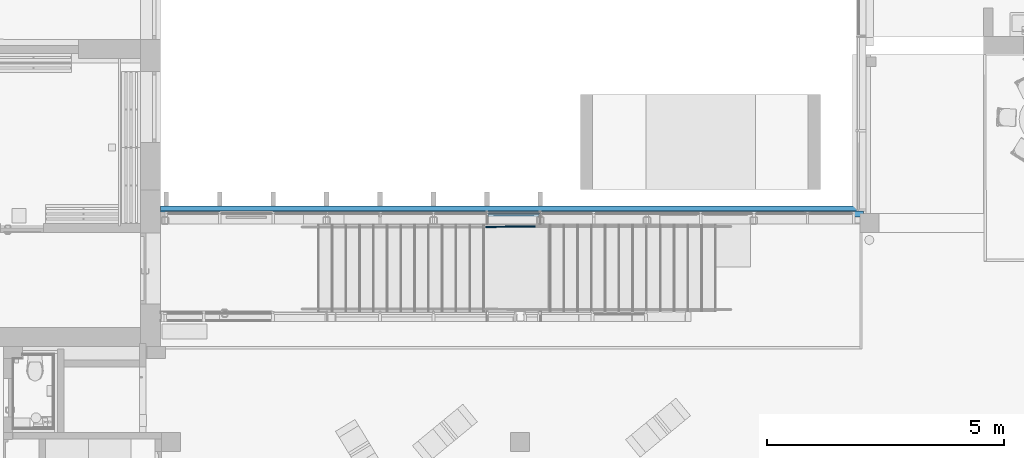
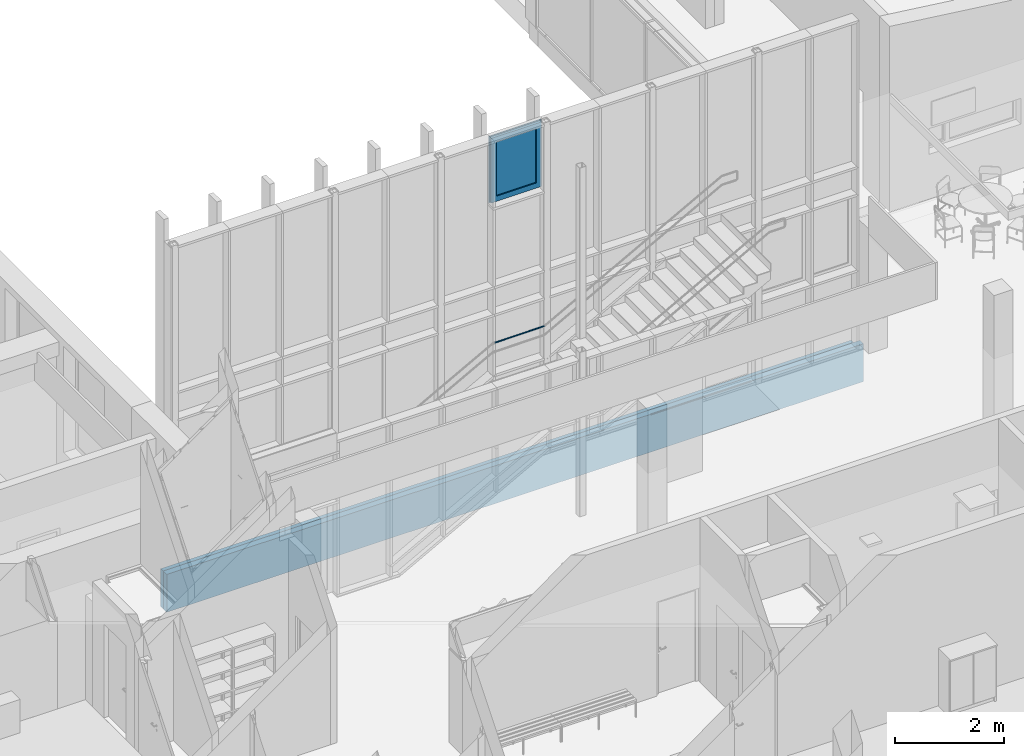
# One storey, part 195 of 301: 5 building element parts, 4 elements without a shape of their own.
"""IFC2X3 building model written with IfcOpenShell, lengths in millimetres."""

import ifcopenshell
import ifcopenshell.guid

model = None  # the IFC model being written
_history = None  # IfcOwnerHistory: only IFC2X3 demands one
_inside = {}  # id of a spatial element -> (the spatial element, [elements in it])
_under = {}  # id of a project, library or spatial element -> (it, [spatial elements below it])
_declared = {}  # id of a project -> (the project, [libraries it declares])
_typed = {}  # id of a type object -> (the type object, [elements of that type])
_made_of = {}  # id of a material, layer set ... -> (it, [elements and type objects made of it])


def new_model(schema):
    """Start an empty IFC model of exactly this schema.

    Asked for "IFC4X3", IfcOpenShell would pick the latest addendum, in which some entities
    have other attributes; the version numbers below select the first issue.
    IFC2X3 requires an IfcOwnerHistory on every rooted entity: one is made here for all.
    """
    global model, _history
    if schema == "IFC4X3":
        model = ifcopenshell.file(schema_version=(4, 3, 0, 0))
    else:
        model = ifcopenshell.file(schema=schema)
    _inside.clear()
    _under.clear()
    _declared.clear()
    _typed.clear()
    _made_of.clear()
    _history = None
    if model.schema == "IFC2X3":
        org = make("IfcOrganization", Name="unknown")
        user = make(
            "IfcPersonAndOrganization",
            ThePerson=make("IfcPerson", FamilyName="unknown"),
            TheOrganization=org,
        )
        app = make(
            "IfcApplication",
            ApplicationDeveloper=org,
            Version="unknown",
            ApplicationFullName="unknown",
            ApplicationIdentifier="unknown",
        )
        _history = make(
            "IfcOwnerHistory",
            OwningUser=user,
            OwningApplication=app,
            ChangeAction="ADDED",
            CreationDate=0,
        )
    return model


def make(cls, **values):
    """One entity of the class cls with the attributes given. An attribute that is None is left unset."""
    return model.create_entity(
        cls, **{name: value for name, value in values.items() if value is not None}
    )


def entity(cls, *values):
    """Any entity or typed value of the class cls, its attributes in the order of the schema. None: left unset."""
    e = model.create_entity(cls)
    for i, value in enumerate(values):
        if value is not None:
            e[i] = value
    return e


def rooted(cls, **values):
    """An entity with a GlobalId (a new one), such as an element, a storey or a relation."""
    return make(cls, GlobalId=ifcopenshell.guid.new(), OwnerHistory=_history, **values)


def si_unit(unit_type, name, prefix=None):
    """IfcSIUnit, for example si_unit("LENGTHUNIT", "METRE", prefix="MILLI")."""
    return make("IfcSIUnit", UnitType=unit_type, Prefix=prefix, Name=name)


def converted_unit(unit_type, name, factor, base, dimensions=None, offset=None):
    """IfcConversionBasedUnit, such as the inch: factor (a typed value) times the base unit."""
    return make(
        "IfcConversionBasedUnit"
        if offset is None
        else "IfcConversionBasedUnitWithOffset",
        ConversionOffset=offset,
        Dimensions=None
        if dimensions is None
        else entity("IfcDimensionalExponents", *dimensions),
        UnitType=unit_type,
        Name=name,
        ConversionFactor=make(
            "IfcMeasureWithUnit", ValueComponent=factor, UnitComponent=base
        ),
    )


def derived_unit(unit_type, elements):
    """IfcDerivedUnit: a product of units, each with its exponent."""
    return make(
        "IfcDerivedUnit",
        Elements=[
            make("IfcDerivedUnitElement", Unit=unit, Exponent=power)
            for unit, power in elements
        ],
        UnitType=unit_type,
    )


def money_unit(currency):
    """IfcMonetaryUnit."""
    return make("IfcMonetaryUnit", Currency=currency)


def assignment(units):
    """IfcUnitAssignment: the units of a project."""
    return None if units is None else make("IfcUnitAssignment", Units=units)


def point(xyz):
    """IfcCartesianPoint."""
    return None if xyz is None else make("IfcCartesianPoint", Coordinates=xyz)


def direction(xyz):
    """IfcDirection."""
    return None if xyz is None else make("IfcDirection", DirectionRatios=xyz)


def frame(location, z_axis=None, x_axis=None):
    """IfcAxis2Placement3D, a coordinate frame: its origin and axes. An axis left out is left unset."""
    return make(
        "IfcAxis2Placement3D",
        Location=point(location),
        Axis=direction(z_axis),
        RefDirection=direction(x_axis),
    )


def origin_with_axes():
    """The frame at (0, 0, 0) with the z axis (0, 0, 1) and the x axis (1, 0, 0) written out."""
    return frame((0.0, 0.0, 0.0), z_axis=(0.0, 0.0, 1.0), x_axis=(1.0, 0.0, 0.0))


def place(relative_to, where):
    """IfcLocalPlacement: puts the frame where relative to a parent placement (None: the world)."""
    return make(
        "IfcLocalPlacement", PlacementRelTo=relative_to, RelativePlacement=where
    )


def context(
    kind, dimensions, precision=None, world=None, true_north=None, identifier=None
):
    """IfcGeometricRepresentationContext, for example the 3D "Model" context."""
    return make(
        "IfcGeometricRepresentationContext",
        ContextIdentifier=identifier,
        ContextType=kind,
        CoordinateSpaceDimension=dimensions,
        Precision=precision,
        WorldCoordinateSystem=world,
        TrueNorth=true_north,
    )


def subcontext(parent, identifier, kind, view, scale=None):
    """IfcGeometricRepresentationSubContext, for example "Body" below "Model"."""
    return make(
        "IfcGeometricRepresentationSubContext",
        ContextIdentifier=identifier,
        ContextType=kind,
        ParentContext=parent,
        TargetScale=scale,
        TargetView=view,
    )


def project(units=None, contexts=None):
    """IfcProject with its units and contexts."""
    return rooted(
        "IfcProject",
        Name="project",
        RepresentationContexts=contexts,
        UnitsInContext=assignment(units),
    )


def spatial(cls, under=None, at=None, **own):
    """A site, building, storey or space (cls), placed at a placement, below another one or the project."""
    s = rooted(cls, ObjectPlacement=at, **own)
    if under is not None:
        _under.setdefault(under.id(), (under, []))[1].append(s)
    return s


def faces_of(points, faces, orient=None, outer=None):
    """IfcFace entities. A face is a list of loops; a loop is a list of indices into points, from 0.

    orient and outer hold one flag for each loop. By default every Orientation is true, the
    first loop of a face is its IfcFaceOuterBound and the others are IfcFaceBound.
    """
    made = []
    for i, loops in enumerate(faces):
        bounds = []
        for j, loop in enumerate(loops):
            is_outer = j == 0 if outer is None else outer[i][j]
            bounds.append(
                make(
                    "IfcFaceOuterBound" if is_outer else "IfcFaceBound",
                    Bound=make("IfcPolyLoop", Polygon=[points[k] for k in loop]),
                    Orientation=True if orient is None else orient[i][j],
                )
            )
        made.append(make("IfcFace", Bounds=bounds))
    return made


def open_shell(faces, orient=None, outer=None):
    """The faces of one IfcOpenShell. surface_model builds it on its shared points."""
    return ("IfcOpenShell", faces, orient, outer)


def faceted_brep(points, faces, orient=None, outer=None, voids=None):
    """IfcFacetedBrep: a solid bounded by flat faces; with voids (closed shells), ...WithVoids."""
    shared = [point(p) for p in points]
    hull = make("IfcClosedShell", CfsFaces=faces_of(shared, faces, orient, outer))
    if voids is None:
        return make("IfcFacetedBrep", Outer=hull)
    return make(
        "IfcFacetedBrepWithVoids",
        Outer=hull,
        Voids=[
            make(cls, CfsFaces=faces_of(shared, fs, o, b)) for cls, fs, o, b in voids
        ],
    )


def surface_model(cls, points, shells):
    """IfcFaceBasedSurfaceModel or IfcShellBasedSurfaceModel (cls): surfaces that need not close."""
    shared = [point(p) for p in points]
    made = [make(c, CfsFaces=faces_of(shared, fs, o, b)) for c, fs, o, b in shells]
    if cls == "IfcFaceBasedSurfaceModel":
        return make(cls, FbsmFaces=made)
    return make(cls, SbsmBoundary=made)


def shape(context_of_items, identifier, shape_type, items):
    """IfcShapeRepresentation: the items that make up one representation, for example the "Body"."""
    return make(
        "IfcShapeRepresentation",
        ContextOfItems=context_of_items,
        RepresentationIdentifier=identifier,
        RepresentationType=shape_type,
        Items=items,
    )


def material(Name=None, Category=None):
    """IfcMaterial."""
    return make("IfcMaterial", Name=Name, Category=Category)


def made_of(thing, what):
    """Note that an element or type object is made of a material, layer set ...; save() writes the relation."""
    if what is not None:
        _made_of.setdefault(what.id(), (what, []))[1].append(thing)
    return thing


def type_object(cls, material=None, **own):
    """A type object (cls), such as IfcWallType, which elements share."""
    return made_of(rooted(cls, **own), material)


def element(
    cls,
    number,
    at=None,
    inside=None,
    cuts=None,
    type_object=None,
    material=None,
    context=None,
    identifier="Body",
    shape_type=None,
    held_by="IfcProductDefinitionShape",
    body=None,
    shapes=None,
    **own,
):
    """One element of the class cls, such as IfcWall. Its Tag is "e" and its number.

    at: its placement. inside: the storey or other place that contains it. cuts: it is an
    opening in that element (IfcRelVoidsElement). A single representation is given by context,
    identifier, shape_type and body (its items); several are given by shapes. held_by: the class
    of the entity that holds the representations. save() writes the other relations.
    """
    e = rooted(cls, Tag="e%d" % number, ObjectPlacement=at, **own)
    if body is not None:
        shapes = [shape(context, identifier, shape_type, body)]
    if shapes is not None:
        e.Representation = make(held_by, Representations=shapes)
    if inside is not None:
        _inside.setdefault(inside.id(), (inside, []))[1].append(e)
    if cuts is not None:
        rooted(
            "IfcRelVoidsElement", RelatingBuildingElement=cuts, RelatedOpeningElement=e
        )
    if type_object is not None:
        _typed.setdefault(type_object.id(), (type_object, []))[1].append(e)
    return made_of(e, material)


def aggregate(whole, parts):
    """IfcRelAggregates: a whole, such as a stair, and the parts it consists of."""
    return rooted("IfcRelAggregates", RelatingObject=whole, RelatedObjects=parts)


def save(model, path):
    """Write the relations noted so far, then the file.

    IfcRelAggregates (storeys below a building ...), IfcRelContainedInSpatialStructure (elements
    in a storey), IfcRelDefinesByType, IfcRelAssociatesMaterial and IfcRelDeclares: one each for
    every whole, place, type object, material and project.
    """
    for whole, parts in _under.values():
        aggregate(whole, parts)
    for where, things in _inside.values():
        rooted(
            "IfcRelContainedInSpatialStructure",
            RelatedElements=things,
            RelatingStructure=where,
        )
    for kind, things in _typed.values():
        rooted("IfcRelDefinesByType", RelatedObjects=things, RelatingType=kind)
    for what, things in _made_of.values():
        rooted("IfcRelAssociatesMaterial", RelatedObjects=things, RelatingMaterial=what)
    for by, libraries in _declared.values():
        rooted("IfcRelDeclares", RelatingContext=by, RelatedDefinitions=libraries)
    model.write(path)


model = new_model("IFC2X3")

# Units and contexts
model_context = context("Model", 3, precision=0.01, world=origin_with_axes(), true_north=direction((0.0, 1.0)))
body_context = subcontext(model_context, "Body", "Model", "MODEL_VIEW")
ifc_project = project(units=[si_unit("LENGTHUNIT", "METRE", prefix="MILLI"), si_unit("AREAUNIT", "SQUARE_METRE"), si_unit("VOLUMEUNIT", "CUBIC_METRE"), converted_unit("PLANEANGLEUNIT", "DEGREE", entity("IfcPlaneAngleMeasure", 0.0174532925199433), si_unit("PLANEANGLEUNIT", "RADIAN"), dimensions=[0, 0, 0, 0, 0, 0, 0]), money_unit("EUR"), converted_unit("TIMEUNIT", "Year", entity("IfcTimeMeasure", 31557600.0), si_unit("TIMEUNIT", "SECOND"), dimensions=[0, 0, 1, 0, 0, 0, 0]), si_unit("MASSUNIT", "GRAM", prefix="KILO"), si_unit("THERMODYNAMICTEMPERATUREUNIT", "DEGREE_CELSIUS"), si_unit("LUMINOUSINTENSITYUNIT", "LUMEN"), si_unit("ENERGYUNIT", "JOULE", prefix="MEGA"), derived_unit("THERMALCONDUCTANCEUNIT", [(si_unit("POWERUNIT", "WATT"), 1), (si_unit("LENGTHUNIT", "METRE"), -1), (si_unit("THERMODYNAMICTEMPERATUREUNIT", "KELVIN"), -1)]), derived_unit("SPECIFICHEATCAPACITYUNIT", [(si_unit("ENERGYUNIT", "JOULE"), 1), (si_unit("MASSUNIT", "GRAM", prefix="KILO"), -1), (si_unit("THERMODYNAMICTEMPERATUREUNIT", "KELVIN"), -1)]), derived_unit("MASSDENSITYUNIT", [(si_unit("MASSUNIT", "GRAM", prefix="KILO"), 1), (si_unit("VOLUMEUNIT", "CUBIC_METRE"), -1)])], contexts=[model_context])

# Site, building, storey
site_placement = place(None, frame((0.0, 0.0, 8650.0), z_axis=(0.0, 0.0, 1.0), x_axis=(1.0, 0.0, 0.0)))
site = spatial("IfcSite", under=ifc_project, at=site_placement, Name="43301:001:0844", CompositionType="ELEMENT")
building_placement = place(site_placement, origin_with_axes())
building = spatial("IfcBuilding", under=site, at=building_placement, Name="Kuressaare Ametikooli tuulikute mehaanikute õppekorpus", CompositionType="ELEMENT")
storey_placement = place(building_placement, origin_with_axes())
storey = spatial("IfcBuildingStorey", under=building, at=storey_placement, Name="1.korrus", CompositionType="ELEMENT", Elevation=0.0)

# Curtain wall, window, building element parts
curtain_wall_type = type_object("IfcCurtainWallType", Name="Curtain Wall Type", PredefinedType="NOTDEFINED")
curtain_wall_placement = place(storey_placement, frame((116704.6026822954, 28579.57374875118, 35.00000000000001), z_axis=(0.0, 0.0, 1.0), x_axis=(1.0, 0.0, 0.0)))
curtain_wall = element("IfcCurtainWall", 1, at=curtain_wall_placement, inside=storey, type_object=curtain_wall_type, Name="KF-1.1")
window_style = type_object("IfcWindowStyle", Name="1115 x 1490 x 20", ConstructionType="NOTDEFINED", OperationType="SINGLE_PANEL", ParameterTakesPrecedence=False, Sizeable=False)
window_placement = place(curtain_wall_placement, frame((-5625.0, 0.0, 6610.000019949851), z_axis=(0.0, 0.0, 1.0), x_axis=(1.0, 0.0, 0.0)))
window = element("IfcWindow", 2, at=window_placement, type_object=window_style, OverallHeight=1450.0, OverallWidth=1075.0)
aggregate(curtain_wall, [window])
ifc_material_1 = material(Name="Klaas")
building_element_part_1_placement = place(window_placement, origin_with_axes())
building_element_part_1 = element("IfcBuildingElementPart", 3, at=building_element_part_1_placement, material=ifc_material_1, Name="Klaas", context=body_context, shape_type="Brep", body=[
    faceted_brep([(-422.5000024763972, -30.00000000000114, -609.9999281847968), (-422.5000024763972, 10.00000000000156, -609.9999281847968), (422.5000027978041, 10.00000000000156, -609.9999281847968), (422.5000027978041, -30.00000000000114, -609.9999281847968), (-422.5000024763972, -30.00000000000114, 609.999928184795), (-422.5000024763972, 10.00000000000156, 609.999928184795), (422.5000027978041, 10.00000000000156, 609.999928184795), (422.5000027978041, -30.00000000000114, 609.999928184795)], [[[0, 1, 2, 3]], [[4, 5, 1, 0]], [[1, 5, 6, 2]], [[3, 2, 6, 7]], [[0, 3, 7, 4]], [[7, 6, 5, 4]]]),
])
ifc_material_2 = material(Name="Aluminium")
building_element_part_2_placement = place(window_placement, origin_with_axes())
building_element_part_2 = element("IfcBuildingElementPart", 4, at=building_element_part_2_placement, material=ifc_material_2, Name="Aluminium", context=body_context, shape_type="SurfaceModel", body=[
    surface_model("IfcShellBasedSurfaceModel", [(-537.5000024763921, -59.99999999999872, -724.999928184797), (537.500002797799, -59.99999999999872, -724.999928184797), (492.5000027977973, -59.99999999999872, -679.999928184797), (-492.5000024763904, -59.99999999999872, -679.999928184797)], [open_shell([[[0, 1, 2, 3]]])]),
    surface_model("IfcShellBasedSurfaceModel", [(537.500002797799, -59.99999999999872, -724.999928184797), (537.500002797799, -59.99999999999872, 724.9999281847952), (492.5000027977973, -59.99999999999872, 679.9999281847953), (492.5000027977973, -59.99999999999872, -679.999928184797)], [open_shell([[[0, 1, 2, 3]]])]),
    surface_model("IfcShellBasedSurfaceModel", [(-537.5000024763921, -59.99999999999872, 724.9999281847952), (-492.5000024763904, -59.99999999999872, 679.9999281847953), (492.5000027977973, -59.99999999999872, 679.9999281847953), (537.500002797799, -59.99999999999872, 724.9999281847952)], [open_shell([[[0, 1, 2, 3]]])]),
    surface_model("IfcShellBasedSurfaceModel", [(-537.5000024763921, -59.99999999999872, -724.999928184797), (-492.5000024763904, -59.99999999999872, -679.999928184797), (-492.5000024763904, -59.99999999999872, 679.9999281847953), (-537.5000024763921, -59.99999999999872, 724.9999281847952)], [open_shell([[[0, 1, 2, 3]]])]),
    faceted_brep([(-537.5000024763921, -59.99999999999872, -724.999928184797), (-537.5000024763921, 19.99999999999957, -724.999928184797), (537.500002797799, 19.99999999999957, -724.999928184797), (537.500002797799, -59.99999999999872, -724.999928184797), (-502.5000024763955, -59.99999999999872, -689.9999281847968), (-502.5000024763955, 19.99999999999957, -689.9999281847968), (502.5000027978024, 19.99999999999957, -689.9999281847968), (502.5000027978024, -59.99999999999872, -689.9999281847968)], [[[0, 1, 2, 3]], [[4, 5, 1, 0]], [[1, 5, 6, 2]], [[3, 2, 6, 7]], [[0, 3, 7, 4]], [[7, 6, 5, 4]]]),
    faceted_brep([(537.500002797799, -59.99999999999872, -724.999928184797), (537.500002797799, 19.99999999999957, -724.999928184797), (537.500002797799, 19.99999999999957, 724.9999281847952), (537.500002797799, -59.99999999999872, 724.9999281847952), (502.5000027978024, -59.99999999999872, -689.9999281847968), (502.5000027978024, 19.99999999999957, -689.9999281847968), (502.5000027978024, 19.99999999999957, 689.9999281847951), (502.5000027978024, -59.99999999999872, 689.9999281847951)], [[[0, 1, 2, 3]], [[4, 5, 1, 0]], [[1, 5, 6, 2]], [[3, 2, 6, 7]], [[0, 3, 7, 4]], [[7, 6, 5, 4]]]),
    faceted_brep([(-537.5000024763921, -59.99999999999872, 724.9999281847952), (-537.5000024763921, 19.99999999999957, 724.9999281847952), (-502.5000024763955, 19.99999999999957, 689.9999281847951), (-502.5000024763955, -59.99999999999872, 689.9999281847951), (537.500002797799, -59.99999999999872, 724.9999281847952), (537.500002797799, 19.99999999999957, 724.9999281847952), (502.5000027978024, 19.99999999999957, 689.9999281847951), (502.5000027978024, -59.99999999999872, 689.9999281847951)], [[[0, 1, 2, 3]], [[4, 5, 1, 0]], [[1, 5, 6, 2]], [[3, 2, 6, 7]], [[0, 3, 7, 4]], [[7, 6, 5, 4]]]),
    faceted_brep([(-537.5000024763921, -59.99999999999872, -724.999928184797), (-537.5000024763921, 19.99999999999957, -724.999928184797), (-502.5000024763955, 19.99999999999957, -689.9999281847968), (-502.5000024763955, -59.99999999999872, -689.9999281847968), (-537.5000024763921, -59.99999999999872, 724.9999281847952), (-537.5000024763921, 19.99999999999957, 724.9999281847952), (-502.5000024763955, 19.99999999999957, 689.9999281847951), (-502.5000024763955, -59.99999999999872, 689.9999281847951)], [[[0, 1, 2, 3]], [[4, 5, 1, 0]], [[1, 5, 6, 2]], [[3, 2, 6, 7]], [[0, 3, 7, 4]], [[7, 6, 5, 4]]]),
    faceted_brep([(-557.5000004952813, -10.00000000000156, -744.9999262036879), (-557.5000004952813, 10.00000000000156, -744.9999262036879), (557.5000008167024, 10.00000000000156, -744.9999262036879), (557.5000008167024, -10.00000000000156, -744.9999262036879), (-537.5000024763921, -10.00000000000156, -724.999928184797), (-537.5000024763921, 10.00000000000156, -724.999928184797), (537.500002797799, 10.00000000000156, -724.999928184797), (537.500002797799, -10.00000000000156, -724.999928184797)], [[[0, 1, 2, 3]], [[4, 5, 1, 0]], [[1, 5, 6, 2]], [[3, 2, 6, 7]], [[0, 3, 7, 4]], [[7, 6, 5, 4]]]),
    faceted_brep([(557.5000008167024, -10.00000000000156, -744.9999262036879), (557.5000008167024, 10.00000000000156, -744.9999262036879), (557.5000008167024, 10.00000000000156, 744.9999262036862), (557.5000008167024, -10.00000000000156, 744.9999262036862), (537.500002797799, -10.00000000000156, -724.999928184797), (537.500002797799, 10.00000000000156, -724.999928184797), (537.500002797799, 10.00000000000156, 724.9999281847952), (537.500002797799, -10.00000000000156, 724.9999281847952)], [[[0, 1, 2, 3]], [[4, 5, 1, 0]], [[1, 5, 6, 2]], [[3, 2, 6, 7]], [[0, 3, 7, 4]], [[7, 6, 5, 4]]]),
    faceted_brep([(557.5000008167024, -10.00000000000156, 744.9999262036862), (557.5000008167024, 10.00000000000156, 744.9999262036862), (-557.5000004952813, 10.00000000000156, 744.9999262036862), (-557.5000004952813, -10.00000000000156, 744.9999262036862), (537.500002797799, -10.00000000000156, 724.9999281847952), (537.500002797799, 10.00000000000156, 724.9999281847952), (-537.5000024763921, 10.00000000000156, 724.9999281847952), (-537.5000024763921, -10.00000000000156, 724.9999281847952)], [[[0, 1, 2, 3]], [[4, 5, 1, 0]], [[1, 5, 6, 2]], [[3, 2, 6, 7]], [[0, 3, 7, 4]], [[7, 6, 5, 4]]]),
    faceted_brep([(-557.5000004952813, -10.00000000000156, 744.9999262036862), (-557.5000004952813, 10.00000000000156, 744.9999262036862), (-557.5000004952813, 10.00000000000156, -744.9999262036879), (-557.5000004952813, -10.00000000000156, -744.9999262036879), (-537.5000024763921, -10.00000000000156, 724.9999281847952), (-537.5000024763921, 10.00000000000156, 724.9999281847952), (-537.5000024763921, 10.00000000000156, -724.999928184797), (-537.5000024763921, -10.00000000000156, -724.999928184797)], [[[0, 1, 2, 3]], [[4, 5, 1, 0]], [[1, 5, 6, 2]], [[3, 2, 6, 7]], [[0, 3, 7, 4]], [[7, 6, 5, 4]]]),
    faceted_brep([(-422.5000024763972, -59.99999999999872, -609.9999281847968), (-422.5000024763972, 19.99999999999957, -609.9999281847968), (-422.5000024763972, 19.99999999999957, 609.999928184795), (-422.5000024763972, -59.99999999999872, 609.999928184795), (-502.5000024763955, -59.99999999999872, -689.9999281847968), (-502.5000024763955, 19.99999999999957, -689.9999281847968), (-502.5000024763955, 19.99999999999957, 689.9999281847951), (-502.5000024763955, -59.99999999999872, 689.9999281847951)], [[[0, 1, 2, 3]], [[4, 5, 1, 0]], [[1, 5, 6, 2]], [[3, 2, 6, 7]], [[0, 3, 7, 4]], [[7, 6, 5, 4]]]),
    faceted_brep([(502.5000027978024, -59.99999999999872, -689.9999281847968), (502.5000027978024, 19.99999999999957, -689.9999281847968), (502.5000027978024, 19.99999999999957, 689.9999281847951), (502.5000027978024, -59.99999999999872, 689.9999281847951), (422.5000027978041, -59.99999999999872, -609.9999281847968), (422.5000027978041, 19.99999999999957, -609.9999281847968), (422.5000027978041, 19.99999999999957, 609.999928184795), (422.5000027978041, -59.99999999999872, 609.999928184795)], [[[0, 1, 2, 3]], [[4, 5, 1, 0]], [[1, 5, 6, 2]], [[3, 2, 6, 7]], [[0, 3, 7, 4]], [[7, 6, 5, 4]]]),
    faceted_brep([(502.5000027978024, -59.99999999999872, -689.9999281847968), (502.5000027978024, 19.99999999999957, -689.9999281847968), (422.5000027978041, 19.99999999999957, -609.9999281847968), (422.5000027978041, -59.99999999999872, -609.9999281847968), (-502.5000024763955, -59.99999999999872, -689.9999281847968), (-502.5000024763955, 19.99999999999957, -689.9999281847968), (-422.5000024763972, 19.99999999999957, -609.9999281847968), (-422.5000024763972, -59.99999999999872, -609.9999281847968)], [[[0, 1, 2, 3]], [[4, 5, 1, 0]], [[1, 5, 6, 2]], [[3, 2, 6, 7]], [[0, 3, 7, 4]], [[7, 6, 5, 4]]]),
    faceted_brep([(-502.5000024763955, -59.99999999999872, 689.9999281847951), (-502.5000024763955, 19.99999999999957, 689.9999281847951), (-422.5000024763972, 19.99999999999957, 609.999928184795), (-422.5000024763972, -59.99999999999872, 609.999928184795), (502.5000027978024, -59.99999999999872, 689.9999281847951), (502.5000027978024, 19.99999999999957, 689.9999281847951), (422.5000027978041, 19.99999999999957, 609.999928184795), (422.5000027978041, -59.99999999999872, 609.999928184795)], [[[0, 1, 2, 3]], [[4, 5, 1, 0]], [[1, 5, 6, 2]], [[3, 2, 6, 7]], [[0, 3, 7, 4]], [[7, 6, 5, 4]]]),
])
aggregate(window, [building_element_part_1, building_element_part_2])

# Wall, building element parts
wall_type = type_object("IfcWallType", Name="TUUL_vundament_madal 380 x 850", PredefinedType="NOTDEFINED")
wall_placement = place(storey_placement, frame((103647.5191028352, 28459.61854452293, 0.0), z_axis=(0.0, 0.0, 1.0), x_axis=(0.9999999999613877, 8.78776237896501e-06, 0.0)))
wall = element("IfcWall", 5, at=wall_placement, inside=storey, type_object=wall_type, Name="Sokkel")
ifc_material_3 = material(Name="Betoon - C30/37")
building_element_part_3_placement = place(wall_placement, origin_with_axes())
building_element_part_3 = element("IfcBuildingElementPart", 6, at=building_element_part_3_placement, material=ifc_material_3, Name="Betoon - C30/37", context=body_context, shape_type="Brep", body=[
    faceted_brep([(0.001581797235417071, 179.9999999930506, 0.0), (14667.03376417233, 179.871109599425, 0.0), (14667.0355217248, 279.8711095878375, -10.00000000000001), (0.002460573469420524, 279.9999999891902, -10.00000000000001), (0.001581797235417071, 179.9999999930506, -850.0000000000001), (14667.03376417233, 179.8711095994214, -850.0000000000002), (14667.0355217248, 279.8711095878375, -850.0000000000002), (0.002460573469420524, 279.9999999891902, -850.0000000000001)], [[[0, 1, 2, 3]], [[4, 5, 1, 0]], [[5, 6, 2, 1]], [[3, 2, 6, 7]], [[3, 7, 4, 0]], [[7, 6, 5, 4]]]),
])
ifc_material_4 = material(Name="Soojustus - Vahtpolüstüreen")
building_element_part_4_placement = place(wall_placement, origin_with_axes())
building_element_part_4 = element("IfcBuildingElementPart", 7, at=building_element_part_4_placement, material=ifc_material_4, Name="Soojustus - Vahtpolüstüreen", context=body_context, shape_type="Brep", body=[
    faceted_brep([(10269.58401845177, 49.9097481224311, 0.0), (10269.58413824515, 63.54158980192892, 0.0), (12414.57884356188, 63.52274009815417, 0.0), (12414.5787237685, 49.89089841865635, 0.0), (14797.03147637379, 49.86996198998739, 0.0), (14797.03376119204, 179.8699642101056, 0.0), (0.001581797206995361, 179.9999970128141, 0.0), (0.0004393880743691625, 49.99999478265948, 0.0), (10269.58401845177, 49.9097481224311, -20.00000000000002), (10269.58413824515, 63.54158980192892, -20.00000000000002), (12414.57884356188, 63.52274009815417, -20.00000000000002), (12414.5787237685, 49.89089841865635, -20.00000000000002), (0.0004393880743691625, 49.99999478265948, -850.0000000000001), (14797.03147637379, 49.86996198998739, -850.0000000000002), (14797.03376119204, 179.8699642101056, -850.0000000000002), (0.001581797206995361, 179.9999970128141, -850.0000000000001)], [[[0, 1, 2, 3, 4, 5, 6, 7]], [[1, 0, 8, 9]], [[2, 1, 9, 10]], [[3, 2, 10, 11]], [[8, 0, 7, 12, 13, 4, 3, 11]], [[13, 14, 5, 4]], [[6, 5, 14, 15]], [[15, 12, 7, 6]], [[8, 11, 10, 9]], [[15, 14, 13, 12]]]),
])
aggregate(wall, [building_element_part_3, building_element_part_4])

# Railing, building element part
railing_type = type_object("IfcRailingType", Name="Railing Type", PredefinedType="NOTDEFINED")
railing_placement = place(storey_placement, frame((107882.9493746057, 28359.57374875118, 157.6923606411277), z_axis=(0.0, 0.0, 1.0), x_axis=(1.0, 0.0, 0.0)))
railing = element("IfcRailing", 8, at=railing_placement, inside=storey, type_object=railing_type, Name="Piire", PredefinedType="NOTDEFINED")
ifc_material_5 = material(Name="Metall - Teras - Roostevaba")
building_element_part_5_placement = place(railing_placement, origin_with_axes())
building_element_part_5 = element("IfcBuildingElementPart", 9, at=building_element_part_5_placement, material=ifc_material_5, Name="Metall - Teras - Roostevaba", context=body_context, shape_type="Brep", body=[
    faceted_brep([(2609.401935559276, -59.54526141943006, 2762.307692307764), (2609.425841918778, -62.14987440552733, 2762.535576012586), (2609.449585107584, -64.67534229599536, 2763.212302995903), (2609.472443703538, -67.04493031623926, 2764.317311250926), (2609.493723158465, -69.18663959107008, 2765.817025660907), (2609.512776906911, -71.0353953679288, 2767.665878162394), (2609.529026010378, -72.53502413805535, 2769.807692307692), (2609.541976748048, -73.63996044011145, 2772.177390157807), (2609.551235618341, -74.31663134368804, 2774.702969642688), (2609.556521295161, -74.544476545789, 2777.307692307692), (2609.557673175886, -74.3165730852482, 2779.912414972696), (2609.55465626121, -73.63984569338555, 2782.437994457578), (2609.547562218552, -72.53485638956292, 2784.807692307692), (2609.536606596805, -71.03517971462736, 2786.94950645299), (2609.522122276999, -69.1863825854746, 2788.798358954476), (2609.504549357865, -67.04463976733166, 2790.298073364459), (2609.484421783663, -64.67502703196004, 2791.403081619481), (2609.462351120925, -62.14954386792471, 2792.079808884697), (2609.439007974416, -59.54492578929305, 2792.307692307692), (2609.415101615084, -56.94031282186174, 2792.07980860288), (2609.391358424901, -54.41484477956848, 2791.403081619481), (2609.368499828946, -52.04525675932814, 2790.298073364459), (2609.347220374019, -49.90354748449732, 2788.798358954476), (2609.328166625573, -48.05479170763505, 2786.94950645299), (2609.31191752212, -46.55516293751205, 2784.807692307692), (2609.298966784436, -45.45022663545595, 2782.437994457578), (2609.289707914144, -44.77355573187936, 2779.912414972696), (2609.284422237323, -44.5457105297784, 2777.307692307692), (2609.283270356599, -44.77361399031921, 2774.702969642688), (2609.286287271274, -45.45034138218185, 2772.177390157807), (2609.293381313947, -46.55533068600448, 2769.807692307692), (2609.304336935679, -48.05500736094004, 2767.665878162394), (2609.318821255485, -49.9038044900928, 2765.817025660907), (2609.336394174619, -52.04554730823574, 2764.317311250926), (2609.356521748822, -54.41516004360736, 2763.212302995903), (2609.378592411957, -56.94064321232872, 2762.535576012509), (2609.414293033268, -59.54514979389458, 2772.307692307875), (2609.40651198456, -58.67694376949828, 2772.383653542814), (2609.399155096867, -57.83511604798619, 2772.609229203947), (2609.392445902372, -57.04524479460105, 2772.97756528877), (2609.386588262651, -56.33133052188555, 2773.477470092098), (2609.381760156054, -55.71506481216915, 2774.093754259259), (2609.378108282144, -55.21517258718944, 2774.807692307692), (2609.375743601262, -54.84684281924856, 2775.597591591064), (2609.374737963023, -54.62126702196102, 2776.439451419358), (2609.375121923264, -54.54529920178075, 2777.307692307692), (2609.376883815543, -54.62124760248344, 2778.175933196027), (2609.379970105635, -54.8468045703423, 2779.01779302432), (2609.384287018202, -55.2151166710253, 2779.807692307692), (2609.389703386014, -55.71499292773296, 2780.521630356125), (2609.396054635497, -56.33124485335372, 2781.137914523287), (2609.403147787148, -57.04514794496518, 2781.637819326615), (2609.410767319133, -57.83501061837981, 2782.006155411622), (2609.418681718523, -58.67683359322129, 2782.231731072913), (2609.426650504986, -59.5450379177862, 2782.307692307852), (2609.434431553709, -60.41324394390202, 2782.231731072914), (2609.441788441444, -61.25507167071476, 2782.006155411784), (2609.448497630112, -62.04494228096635, 2781.637819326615), (2609.454355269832, -62.7588565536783, 2781.137914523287), (2609.45918337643, -63.37512226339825, 2780.521630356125), (2609.462835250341, -63.87501448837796, 2779.807692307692), (2609.465199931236, -64.24334425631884, 2779.01779302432), (2609.466205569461, -64.46892005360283, 2778.175933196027), (2609.46582160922, -64.54488787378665, 2777.307692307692), (2609.464059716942, -64.46893947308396, 2776.439451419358), (2609.460973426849, -64.2433825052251, 2775.597591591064), (2609.456656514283, -63.87507040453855, 2774.807692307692), (2609.45124014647, -63.37519414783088, 2774.093754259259), (2609.444888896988, -62.75894222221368, 2773.477470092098), (2609.437795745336, -62.04503913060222, 2772.97756528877), (2609.430176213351, -61.25517645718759, 2772.609229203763), (2609.422261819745, -60.41335412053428, 2772.383653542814), (3671.782319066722, -49.96324789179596, 2762.307709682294), (3671.736916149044, -52.56824283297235, 2762.535593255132), (2609.485434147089, -64.67501787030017, 2763.212302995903), (3671.576990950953, -55.09464466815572, 2763.212319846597), (2609.506878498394, -67.04461868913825, 2764.317311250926), (2609.526260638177, -69.18634513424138, 2765.817025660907), (3671.307402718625, -57.46568995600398, 2764.31732746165), (3670.936342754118, -59.60933568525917, 2765.817041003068), (2609.542991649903, -71.03512193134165, 2767.665878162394), (3670.475085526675, -61.46044826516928, 2767.665892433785), (2609.556563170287, -72.53477493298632, 2769.807692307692), (3669.937646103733, -62.96278257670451, 2769.807705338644), (2609.566562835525, -73.63973794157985, 2772.177390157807), (3669.340354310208, -64.07069095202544, 2772.17740181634), (2609.57268681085, -74.3164372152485, 2774.702969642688), (3668.701358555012, -64.75051015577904, 2774.702979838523), (2609.574749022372, -74.5443115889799, 2777.307692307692), (3668.040074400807, -64.98158422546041, 2777.307700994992), (2609.57268681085, -74.3164372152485, 2779.912414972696), (3667.376594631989, -64.75689209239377, 2779.912422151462), (2609.566562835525, -73.63973794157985, 2782.437994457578), (3666.731078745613, -64.08326091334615, 2782.438000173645), (3666.123140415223, -62.98115863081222, 2784.807696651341), (3665.571251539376, -61.48407206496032, 2786.9495095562), (3665.09218098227, -59.63748943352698, 2788.798360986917), (3664.700485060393, -57.49751821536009, 2790.298074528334), (3664.408065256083, -55.12918035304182, 2791.403082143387), (3664.223806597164, -52.60443659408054, 2792.079808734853), (3664.153307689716, -50.00000000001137, 2792.30769230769), (3664.19871060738, -47.39500505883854, 2792.079808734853), (3664.358635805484, -44.86860322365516, 2791.403082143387), (3664.628224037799, -42.49755793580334, 2790.298074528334), (3664.99928400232, -40.35391220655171, 2788.798360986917), (3665.460541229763, -38.5027996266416, 2786.9495095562), (2609.311453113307, -45.45011363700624, 2782.437994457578), (3665.997980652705, -37.00046531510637, 2784.807696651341), (3666.59527244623, -35.89255693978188, 2782.438000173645), (2609.305329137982, -44.77341436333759, 2779.912414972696), (3667.234268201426, -35.21273773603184, 2779.912422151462), (2609.30326692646, -44.5455399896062, 2777.307692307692), (3667.895552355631, -34.98166366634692, 2777.307700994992), (2609.305329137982, -44.77341436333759, 2774.702969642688), (2609.311453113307, -45.45011363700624, 2772.177390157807), (3668.559032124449, -35.20635579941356, 2774.702979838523), (3669.204548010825, -35.87998697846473, 2772.17740181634), (2609.321452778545, -46.55507664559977, 2769.807692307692), (3669.812486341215, -36.98208926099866, 2769.807705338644), (2609.335024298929, -48.05472964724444, 2767.665878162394), (3670.364375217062, -38.47917582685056, 2767.665892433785), (2609.351755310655, -49.90350644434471, 2765.817025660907), (2609.371137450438, -52.04523288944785, 2764.317311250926), (3670.843445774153, -40.32575845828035, 2765.817041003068), (3671.235141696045, -42.46572967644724, 2764.31732746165), (2609.392581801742, -54.41483370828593, 2763.212302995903), (3671.527561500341, -44.83406753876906, 2763.212319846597), (2609.415436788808, -56.94030977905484, 2762.535576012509), (3671.711820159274, -47.35881129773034, 2762.535593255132), (3669.239315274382, -49.97549859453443, 2772.30770389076), (3669.215815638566, -49.10735306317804, 2772.383665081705), (3669.154396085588, -48.26577181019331, 2772.609240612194), (2609.416384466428, -57.04502815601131, 2772.97756528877), (3669.05692281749, -47.47632585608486, 2772.977576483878), (2609.409923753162, -56.33111934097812, 2773.477470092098), (3668.926357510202, -46.76300211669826, 2773.477480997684), (2609.404346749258, -55.71486040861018, 2774.093754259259), (3668.766667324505, -46.14747457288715, 2774.093764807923), (2609.399822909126, -55.2149760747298, 2774.807692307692), (3668.582704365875, -45.64844571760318, 2774.807702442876), (2609.396489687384, -54.84665507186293, 2775.597591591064), (3668.38005825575, -45.28107829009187, 2775.597601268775), (2609.394448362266, -54.62108864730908, 2776.439451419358), (3668.164886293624, -45.05653456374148, 2776.439460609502), (2609.393760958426, -54.54513052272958, 2777.307692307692), (3667.943726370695, -44.98163718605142, 2777.307700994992), (2609.394448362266, -54.62108864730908, 2778.175933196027), (3667.723298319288, -45.05866187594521, 2778.175941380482), (2609.396489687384, -54.84665507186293, 2779.01779302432), (3667.510299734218, -45.28526827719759, 2779.01780072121), (2609.399822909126, -55.2149760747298, 2779.807692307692), (3667.311202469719, -45.65457106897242, 2779.807699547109), (2609.404346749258, -55.71486040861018, 2780.521630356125), (3667.132055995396, -46.15534917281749, 2780.521637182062), (2609.409923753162, -56.33111934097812, 2781.137914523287), (3666.978303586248, -46.77238669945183, 2781.1379209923), (2609.416384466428, -57.04502815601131, 2781.637819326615), (3666.854616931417, -47.48693527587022, 2781.637825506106), (2609.42353258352, -57.83489509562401, 2782.006155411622), (3666.764754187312, -48.27728370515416, 2782.006161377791), (3666.711445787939, -49.1194176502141, 2782.231736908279), (3666.696311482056, -49.9877492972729, 2782.307698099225), (3666.719811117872, -50.85589482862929, 2782.231736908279), (3666.781230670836, -51.69747608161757, 2782.006161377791), (2609.461631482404, -62.04482342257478, 2781.637819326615), (3666.878703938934, -52.48692203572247, 2781.637825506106), (2609.46809219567, -62.75873223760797, 2781.137914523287), (3667.009269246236, -53.20024577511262, 2781.1379209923), (2609.473669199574, -63.37499116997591, 2780.521630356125), (3667.168959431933, -53.81577331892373, 2780.521637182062), (2609.478193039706, -63.87487550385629, 2779.807692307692), (2609.481526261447, -64.24319650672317, 2779.01779302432), (3667.352922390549, -54.3148021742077, 2779.807699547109), (3667.555568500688, -54.68216960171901, 2779.01780072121), (2609.483567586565, -64.46876293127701, 2778.175933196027), (3667.770740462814, -54.9067133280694, 2778.175941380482), (2609.484254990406, -64.54472105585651, 2777.307692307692), (3667.991900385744, -54.98161070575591, 2777.307700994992), (2609.483567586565, -64.46876293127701, 2776.439451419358), (3668.21232843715, -54.90458601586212, 2776.439460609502), (2609.481526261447, -64.24319650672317, 2775.597591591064), (3668.42532702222, -54.67797961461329, 2775.597601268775), (2609.478193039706, -63.87487550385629, 2774.807692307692), (3668.624424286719, -54.30867682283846, 2774.807702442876), (2609.473669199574, -63.37499116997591, 2774.093754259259), (3668.803570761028, -53.80789871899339, 2774.093764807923), (2609.46809219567, -62.75873223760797, 2773.477470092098), (3668.95732317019, -53.1908611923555, 2773.477480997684), (2609.461631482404, -62.04482342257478, 2772.97756528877), (3669.081009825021, -52.4763126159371, 2772.977576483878), (2609.454483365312, -61.25495648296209, 2772.609229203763), (3669.170872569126, -51.68596418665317, 2772.609240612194), (3669.224180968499, -50.84383024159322, 2772.383665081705)], [[[0, 1, 2, 3, 4, 5, 6, 7, 8, 9, 10, 11, 12, 13, 14, 15, 16, 17, 18, 19, 20, 21, 22, 23, 24, 25, 26, 27, 28, 29, 30, 31, 32, 33, 34, 35], [36, 37, 38, 39, 40, 41, 42, 43, 44, 45, 46, 47, 48, 49, 50, 51, 52, 53, 54, 55, 56, 57, 58, 59, 60, 61, 62, 63, 64, 65, 66, 67, 68, 69, 70, 71]], [[1, 0, 72, 73]], [[2, 1, 73, 74]], [[3, 2, 74, 75, 76]], [[77, 4, 3, 76, 78]], [[5, 4, 77, 79, 80]], [[6, 5, 80, 81, 82]], [[6, 82, 83, 84, 7]], [[8, 7, 84, 85, 86]], [[9, 8, 86, 87, 88]], [[10, 9, 88, 89, 90]], [[11, 10, 90, 91, 92]], [[11, 92, 93, 12]], [[13, 12, 94]], [[14, 13, 95]], [[15, 14, 96]], [[16, 15, 97]], [[17, 16, 98]], [[18, 17, 99, 100]], [[19, 18, 100, 101]], [[20, 19, 101]], [[21, 20, 102]], [[22, 21, 103]], [[23, 22, 104]], [[24, 23, 105]], [[106, 25, 24, 107]], [[26, 25, 106, 108, 109]], [[27, 26, 109, 110, 111]], [[28, 27, 111, 112, 113]], [[114, 29, 28, 113, 115]], [[30, 29, 114, 116, 117]], [[31, 30, 117, 118, 119]], [[32, 31, 119, 120, 121]], [[122, 33, 32, 121, 123]], [[34, 33, 122, 124, 125]], [[35, 34, 125, 126, 127]], [[0, 35, 127, 128, 72]], [[37, 36, 129, 130]], [[38, 37, 130, 131]], [[39, 38, 131, 132]], [[39, 132, 133, 134, 40]], [[41, 40, 134, 135, 136]], [[42, 41, 136, 137, 138]], [[43, 42, 138, 139, 140]], [[43, 140, 141, 142, 44]], [[45, 44, 142, 143, 144]], [[46, 45, 144, 145, 146]], [[47, 46, 146, 147, 148]], [[47, 148, 149, 150, 48]], [[49, 48, 150, 151, 152]], [[50, 49, 152, 153, 154]], [[51, 50, 154, 155, 156]], [[52, 51, 156, 157, 158]], [[53, 52, 158, 159, 160]], [[54, 53, 160, 161]], [[55, 54, 161, 162]], [[56, 55, 162, 163]], [[57, 56, 163, 164]], [[58, 57, 164, 165, 166]], [[59, 58, 166, 167, 168]], [[60, 59, 168, 169, 170]], [[171, 61, 60, 170, 172]], [[62, 61, 171, 173, 174]], [[63, 62, 174, 175, 176]], [[64, 63, 176, 177, 178]], [[65, 64, 178, 179, 180]], [[66, 65, 180, 181, 182]], [[67, 66, 182, 183, 184]], [[68, 67, 184, 185, 186]], [[69, 68, 186, 187, 188]], [[70, 69, 188, 189, 190]], [[71, 70, 190, 191, 192]], [[36, 71, 192, 129]], [[95, 94, 93, 91, 89, 87, 85, 83, 81, 79, 78, 75, 73, 72, 128, 126, 124, 123, 120, 118, 116, 115, 112, 110, 108, 107, 105, 104, 103, 102, 101, 100, 99, 98, 97, 96], [169, 167, 165, 163, 162, 161, 160, 159, 157, 155, 153, 151, 149, 147, 145, 143, 141, 139, 137, 135, 133, 131, 130, 129, 192, 191, 189, 187, 185, 183, 181, 179, 177, 175, 173, 172]], [[74, 73, 75]], [[78, 76, 75]], [[79, 77, 78]], [[81, 80, 79]], [[82, 81, 83]], [[84, 83, 85]], [[87, 86, 85]], [[89, 88, 87]], [[91, 90, 89]], [[93, 92, 91]], [[12, 93, 94]], [[95, 13, 94]], [[14, 95, 96]], [[15, 96, 97]], [[16, 97, 98]], [[17, 98, 99]], [[20, 101, 102]], [[21, 102, 103]], [[22, 103, 104]], [[23, 104, 105]], [[24, 105, 107]], [[108, 106, 107]], [[110, 109, 108]], [[111, 110, 112]], [[113, 112, 115]], [[114, 115, 116]], [[118, 117, 116]], [[120, 119, 118]], [[121, 120, 123]], [[124, 122, 123]], [[125, 124, 126]], [[127, 126, 128]], [[132, 131, 133]], [[135, 134, 133]], [[137, 136, 135]], [[139, 138, 137]], [[141, 140, 139]], [[142, 141, 143]], [[145, 144, 143]], [[146, 145, 147]], [[148, 147, 149]], [[151, 150, 149]], [[153, 152, 151]], [[154, 153, 155]], [[156, 155, 157]], [[159, 158, 157]], [[165, 164, 163]], [[167, 166, 165]], [[168, 167, 169]], [[170, 169, 172]], [[171, 172, 173]], [[175, 174, 173]], [[177, 176, 175]], [[178, 177, 179]], [[180, 179, 181]], [[182, 181, 183]], [[184, 183, 185]], [[187, 186, 185]], [[188, 187, 189]], [[190, 189, 191]]]),
])
aggregate(railing, [building_element_part_5])

save(model, "model.ifc")
